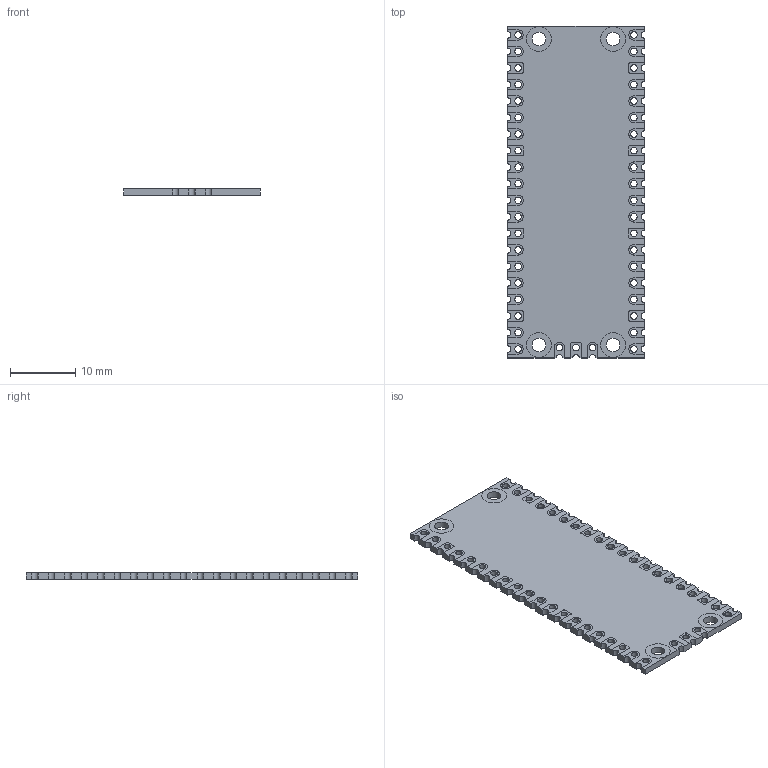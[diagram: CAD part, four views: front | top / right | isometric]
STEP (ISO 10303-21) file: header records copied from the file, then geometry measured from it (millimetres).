
FILE_DESCRIPTION(/* description */ ('STEP AP242 Edition 2','CAx-IF Rec.Pracs.---Representation and Presentation of Product Manufacturing Information (PMI)---4.0---2014-10-13','CAx-IF Rec.Pracs.---3D Tessellated Geometry---0.4---2014-09-14','2;1','CAx-IF Rec.Pracs.---User Defined Attributes---1.5---2016-08-15'),/* implementation_level */ '2;1');
FILE_NAME(/* name */ 'HIRO_Assembly - PCB, Raspberry Pi Pico-R3',/* time_stamp */ '2026-11-04T05:23:21Z',/* author */ (''),/* organization */ (''),/* preprocessor_version */ 'ST-DEVELOPER v20',/* originating_system */ 'ONSHAPE BY PTC INC, 1.223',/* authorisation */ ' ');
FILE_SCHEMA (('AP242_MANAGED_MODEL_BASED_3D_ENGINEERING_MIM_LF { 1 0 10303 442 3 1 4 }'));
Length unit declared in the file: metre
Products named in the file (1): PCB, Raspberry Pi Pico-R3
Bounding box: 21 x 51 x 1 mm (x, y, z)
Volume: 1006.3 mm3; surface area: 2343.1 mm2
Topology: 1 solids, 1 shells, 359 faces, 1055 edges, 706 vertices
Faces by surface type: plane 205, cylinder 154
Full cylindrical faces by diameter (mm): 1 x43, 2.1 x4, 3.8 x8
Entity records: 13868 total; most frequent: CARTESIAN_POINT 2050, DIRECTION 2020, ORIENTED_EDGE 1984, EDGE_CURVE 992, VERTEX_POINT 698, LINE 684, VECTOR 684, AXIS2_PLACEMENT_3D 668
